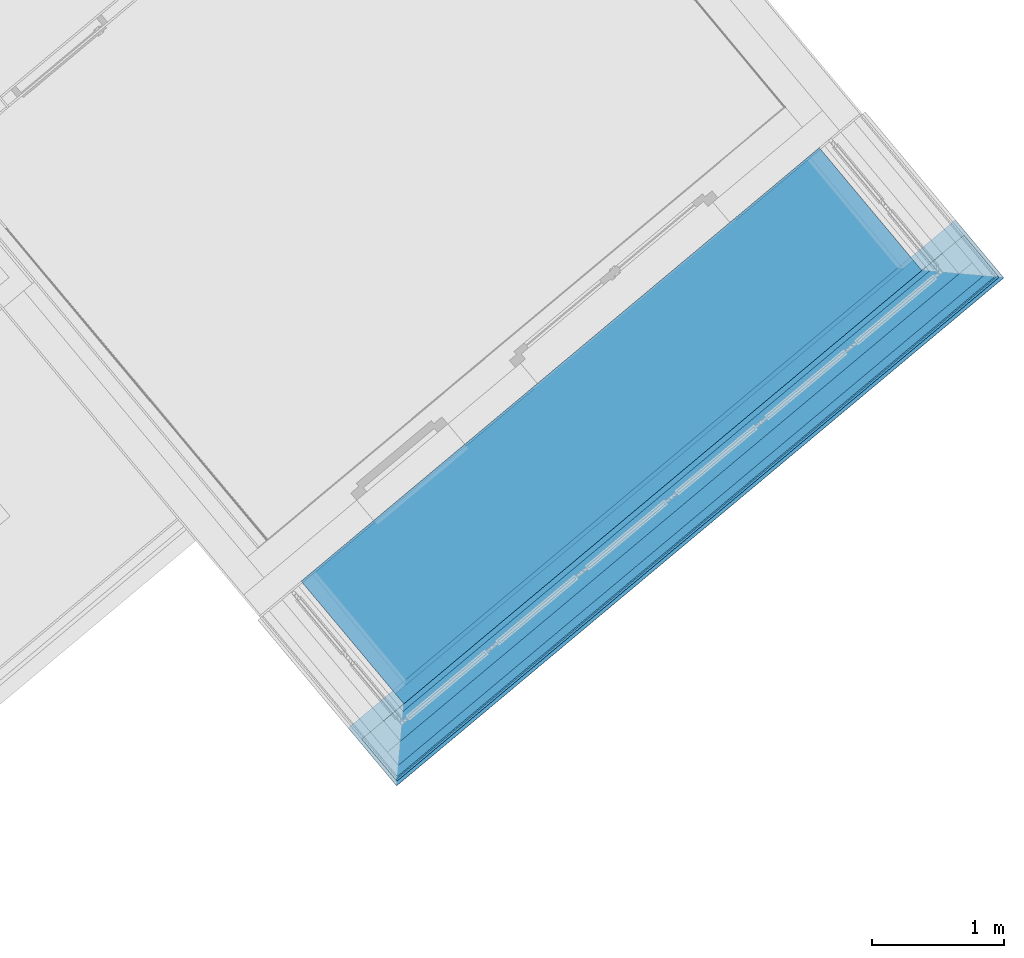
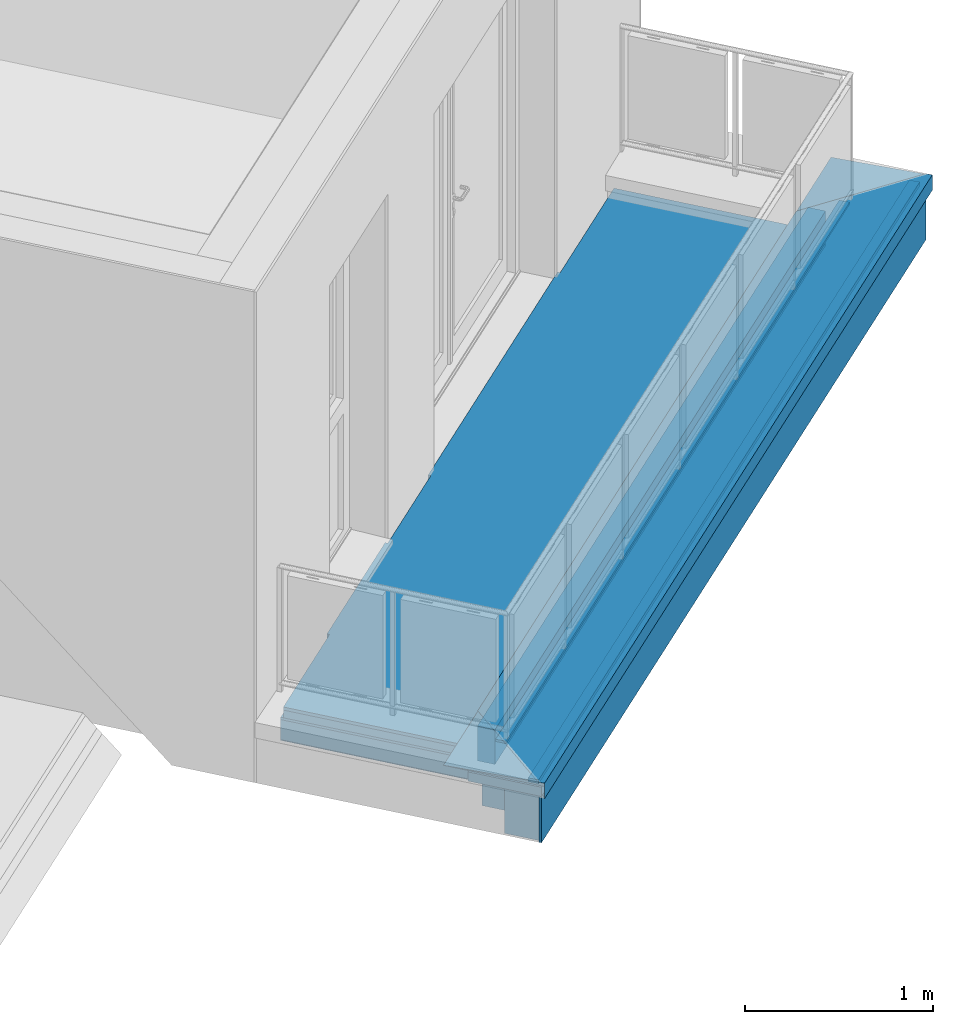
# One storey, part 34 of 50: 14 building element parts, 2 elements without a shape of their own.
"""IFC4 building model written with IfcOpenShell, lengths in metres."""

from ifc_helpers import new_model, entity, si_unit, converted_unit, derived_unit, direction, frame, origin_with_axes, place, context, subcontext, project, spatial, polygons, material, type_object, element, aggregate, save


model = new_model("IFC4")

# Units and contexts
model_context = context("Model", 3, precision=1e-05, world=origin_with_axes(), true_north=direction((0.0, 1.0)))
body_context = subcontext(model_context, "Body", "Model", "MODEL_VIEW")
ifc_project = project(units=[si_unit("LENGTHUNIT", "METRE"), si_unit("AREAUNIT", "SQUARE_METRE"), si_unit("VOLUMEUNIT", "CUBIC_METRE"), converted_unit("PLANEANGLEUNIT", "DEGREE", entity("IfcPlaneAngleMeasure", 0.0174532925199), si_unit("PLANEANGLEUNIT", "RADIAN"), dimensions=[0, 0, 0, 0, 0, 0, 0]), converted_unit("TIMEUNIT", "Year", entity("IfcTimeMeasure", 31556926.0), si_unit("TIMEUNIT", "SECOND"), dimensions=[0, 0, 1, 0, 0, 0, 0]), si_unit("MASSUNIT", "GRAM", prefix="KILO"), si_unit("THERMODYNAMICTEMPERATUREUNIT", "DEGREE_CELSIUS"), si_unit("LUMINOUSINTENSITYUNIT", "LUMEN"), si_unit("ENERGYUNIT", "JOULE", prefix="MEGA"), derived_unit("THERMALCONDUCTANCEUNIT", [(si_unit("POWERUNIT", "WATT"), 1), (si_unit("LENGTHUNIT", "METRE"), -1), (si_unit("THERMODYNAMICTEMPERATUREUNIT", "KELVIN"), -1)]), derived_unit("SPECIFICHEATCAPACITYUNIT", [(si_unit("ENERGYUNIT", "JOULE"), 1), (si_unit("MASSUNIT", "GRAM", prefix="KILO"), -1), (si_unit("THERMODYNAMICTEMPERATUREUNIT", "KELVIN"), -1)]), derived_unit("MASSDENSITYUNIT", [(si_unit("MASSUNIT", "GRAM", prefix="KILO"), 1), (si_unit("VOLUMEUNIT", "CUBIC_METRE"), -1)])], contexts=[model_context])

# Site, building, storey
site_placement = place(None, frame((-0.00153261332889, -0.00661245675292, 0.0), z_axis=(0.0, 0.0, 1.0), x_axis=(1.0, 0.0, 0.0)))
site = spatial("IfcSite", under=ifc_project, at=site_placement, Name="Gelände", CompositionType="ELEMENT")
building_placement = place(site_placement, origin_with_axes())
building = spatial("IfcBuilding", under=site, at=building_placement, Name="Gebäude", CompositionType="ELEMENT")
storey_placement = place(building_placement, frame((0.0, 0.0, 8.66), z_axis=(0.0, 0.0, 1.0), x_axis=(1.0, 0.0, 0.0)))
storey = spatial("IfcBuildingStorey", under=building, at=storey_placement, Name="DG2", CompositionType="ELEMENT", Elevation=8.66)

# Wall, building element parts
wall_type = type_object("IfcWallType", Name="Bauteil - Attika Terrasse 1.DG 574 x 410", PredefinedType="NOTDEFINED")
wall_placement = place(storey_placement, frame((8.86706086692, 16.7682826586, -0.2), z_axis=(0.0, 0.0, 1.0), x_axis=(0.766948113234, 0.641709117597, 0.0)))
wall = element("IfcWall", 1, at=wall_placement, inside=storey, type_object=wall_type, Name="Wand-004", PredefinedType="NOTDEFINED")
ifc_material_1 = material(Name="Stahl")
building_element_part_1_placement = place(wall_placement, origin_with_axes())
building_element_part_1 = element("IfcBuildingElementPart", 2, at=building_element_part_1_placement, material=ifc_material_1, Name="Stahl", PredefinedType="NOTDEFINED", context=body_context, shape_type="Tessellation", body=[
    polygons([(-0.241500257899, -0.241500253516, 0.510007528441), (-0.241500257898, -0.239585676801, 0.510007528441), (-0.240542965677, -0.240542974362, 0.50905023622), (-0.241500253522, -0.238231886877, 0.511361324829), (-0.241500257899, -0.241500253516, 0.610006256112), (-0.241500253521, -0.202730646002, 0.608602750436), (-0.241500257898, -0.240152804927, 0.608602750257), (-0.241500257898, -0.240146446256, 0.51136132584), (-0.240146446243, -0.238231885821, 0.511361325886), (-0.233287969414, -0.23137340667, 0.518219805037), (5.74582290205, -0.23137340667, 0.518219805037), (5.75267691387, -0.238231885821, 0.511361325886), (5.75403072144, -0.238231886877, 0.511361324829), (5.75402983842, -0.239585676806, 0.510007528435), (5.75307201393, -0.240542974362, 0.509050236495), (5.75402859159, -0.241500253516, 0.510007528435), (5.75402859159, -0.241500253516, 0.610006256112), (5.75405384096, -0.202730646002, 0.608602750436), (5.75270639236, -0.202730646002, 0.608602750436), (5.75183065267, -0.201849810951, 0.608570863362), (5.21824105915, 0.332051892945, 0.589243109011), (0.294660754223, 0.332051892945, 0.589243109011), (-0.239276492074, -0.201849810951, 0.608570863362), (-0.240152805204, -0.202730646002, 0.608602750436), (-0.240152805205, -0.240152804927, 0.608602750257), (5.75268202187, -0.240152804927, 0.608602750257), (5.75402946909, -0.240152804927, 0.608602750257), (5.75402947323, -0.240146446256, 0.51136132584), (5.75267566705, -0.24014644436, 0.511361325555), (-0.240146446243, -0.24014644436, 0.511361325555), (-0.232283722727, -0.23228372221, 0.519224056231), (5.74481806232, -0.23228372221, 0.519224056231), (5.75180627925, -0.239276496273, 0.608570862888), (5.18220274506, 0.330665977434, 0.587938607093), (5.18220281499, 0.330698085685, 0.587937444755), (5.18220365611, 0.332051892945, 0.587938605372), (0.330137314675, 0.332051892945, 0.489652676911), (0.328783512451, 0.332051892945, 0.49100648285), (0.330698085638, 0.332051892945, 0.491006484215), (0.330698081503, 0.332051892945, 0.498822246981), (0.330698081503, 0.332051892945, 0.499999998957), (0.330698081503, 0.332051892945, 0.50905023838), (0.330698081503, 0.332051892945, 0.511361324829), (0.330698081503, 0.332051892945, 0.519224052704), (0.330698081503, 0.332051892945, 0.559999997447), (0.330698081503, 0.332051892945, 0.567947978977), (0.330698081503, 0.332051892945, 0.573880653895), (0.330698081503, 0.332051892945, 0.575979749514), (0.330698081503, 0.332051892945, 0.584015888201), (0.330698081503, 0.332051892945, 0.586106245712), (0.330698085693, 0.332051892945, 0.587938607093), (5.1822036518, 0.332051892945, 0.586106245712), (5.1822036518, 0.332051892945, 0.584015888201), (5.1822036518, 0.332051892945, 0.575979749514), (5.1822036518, 0.332051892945, 0.573880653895), (5.1822036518, 0.332051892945, 0.567947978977), (5.1822036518, 0.332051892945, 0.559999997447), (5.1822036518, 0.332051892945, 0.519224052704), (5.1822036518, 0.332051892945, 0.511361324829), (5.1822036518, 0.332051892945, 0.50905023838), (5.1822036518, 0.332051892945, 0.499999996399), (5.1822036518, 0.332051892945, 0.498822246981), (5.18220364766, 0.332051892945, 0.491006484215), (5.18411820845, 0.332051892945, 0.49100648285), (5.18276440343, 0.332051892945, 0.489652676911), (-0.239276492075, -0.239276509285, 0.608570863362), (0.330698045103, 0.330698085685, 0.587937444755), (0.330698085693, 0.33066589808, 0.587938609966), (5.18220277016, 0.330698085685, 0.586106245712), (0.32878351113, 0.330698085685, 0.491006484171), (0.331094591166, 0.331094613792, 0.488695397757), (0.328783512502, 0.328783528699, 0.49100648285), (0.330698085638, 0.330698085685, 0.491006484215), (0.330698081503, 0.330698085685, 0.498822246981), (0.330698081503, 0.330698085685, 0.499999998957), (0.330698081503, 0.330698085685, 0.50905023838), (0.330698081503, 0.330698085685, 0.511361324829), (0.330698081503, 0.330698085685, 0.519224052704), (0.330698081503, 0.330698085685, 0.559999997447), (0.330698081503, 0.330698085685, 0.567947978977), (0.330698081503, 0.330698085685, 0.573880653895), (0.330698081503, 0.330698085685, 0.575979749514), (0.330698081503, 0.330698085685, 0.584015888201), (0.330698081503, 0.330698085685, 0.586106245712), (5.18220277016, 0.330698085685, 0.584015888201), (5.18220277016, 0.330698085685, 0.575979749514), (5.18220277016, 0.330698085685, 0.573880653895), (5.18220277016, 0.330698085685, 0.567947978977), (5.18220277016, 0.330698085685, 0.559999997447), (5.18220277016, 0.330698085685, 0.519224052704), (5.18220277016, 0.330698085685, 0.511361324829), (5.18220277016, 0.330698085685, 0.50905023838), (5.18220277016, 0.330698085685, 0.499999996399), (5.18220277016, 0.330698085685, 0.498822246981), (5.18220276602, 0.330698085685, 0.491006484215), (5.18411732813, 0.330698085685, 0.491006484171), (5.18180650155, 0.331094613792, 0.488695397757), (5.18411607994, 0.328783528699, 0.49100648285), (0.321878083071, 0.32187807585, 0.497911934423), (5.19101702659, 0.32187807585, 0.497911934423), (0.321878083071, 0.323792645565, 0.497911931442), (0.322882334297, 0.322882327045, 0.498822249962), (5.19001342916, 0.322882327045, 0.498822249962), (5.19101827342, 0.323792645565, 0.497911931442)], [[[1, 2, 3]], [[4, 2, 1, 5, 6, 7, 8]], [[2, 4, 9, 10, 11, 12, 13, 14, 15, 3]], [[1, 3, 15, 16]], [[5, 1, 16, 17]], [[6, 5, 17, 18, 19, 20, 21, 22, 23, 24]], [[25, 7, 6, 24]], [[8, 7, 25, 26, 27, 28, 29, 30]], [[4, 8, 30, 9]], [[9, 30, 31, 10]], [[10, 31, 32, 11]], [[29, 12, 11, 32]], [[12, 29, 28, 13]], [[16, 14, 13, 28, 27, 18, 17]], [[15, 14, 16]], [[27, 26, 19, 18]], [[26, 33, 20, 19]], [[33, 34, 35, 36, 21, 20]], [[37, 38, 39, 40, 41, 42, 43, 44, 45, 46, 47, 48, 49, 50, 51, 22, 21, 36, 52, 53, 54, 55, 56, 57, 58, 59, 60, 61, 62, 63, 64, 65]], [[66, 23, 22, 51, 67, 68]], [[23, 66, 25, 24]], [[25, 66, 33, 26]], [[31, 30, 29, 32]], [[66, 68, 67, 35, 34, 33]], [[69, 52, 36, 35]], [[70, 38, 37, 71, 72]], [[38, 70, 73, 39]], [[40, 39, 73, 74]], [[41, 40, 74, 75]], [[42, 41, 75, 76]], [[43, 42, 76, 77]], [[44, 43, 77, 78]], [[45, 44, 78, 79]], [[46, 45, 79, 80]], [[47, 46, 80, 81]], [[48, 47, 81, 82]], [[49, 48, 82, 83]], [[50, 49, 83, 84]], [[51, 50, 84, 67]], [[52, 69, 85, 53]], [[86, 54, 53, 85]], [[87, 55, 54, 86]], [[88, 56, 55, 87]], [[89, 57, 56, 88]], [[90, 58, 57, 89]], [[91, 59, 58, 90]], [[92, 60, 59, 91]], [[93, 61, 60, 92]], [[61, 93, 94, 62]], [[63, 62, 94, 95]], [[63, 95, 96, 64]], [[97, 65, 64, 96, 98]], [[71, 37, 65, 97]], [[73, 95, 94, 93, 92, 91, 90, 89, 88, 87, 86, 85, 69, 35, 67, 84, 83, 82, 81, 80, 79, 78, 77, 76, 75, 74]], [[99, 72, 71, 97, 98, 100]], [[101, 70, 72, 99]], [[70, 101, 102, 103, 104, 96, 95, 73]], [[98, 96, 104, 100]], [[102, 99, 100, 103]], [[101, 99, 102]], [[104, 103, 100]]], closed=True),
])
ifc_material_2 = material(Name="Holzwerkstoff")
building_element_part_2_placement = place(wall_placement, origin_with_axes())
building_element_part_2 = element("IfcBuildingElementPart", 3, at=building_element_part_2_placement, material=ifc_material_2, Name="Holzwerkstoff", PredefinedType="NOTDEFINED", context=body_context, shape_type="Tessellation", body=[
    polygons([(0.0999999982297, 0.330280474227, 0.575979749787), (0.160110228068, 0.33020717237, 0.573880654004), (0.160110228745, 0.160110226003, 0.573880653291), (0.0999999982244, 0.100000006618, 0.575979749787), (-0.189985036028, 0.330634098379, 0.58610624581), (-0.239999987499, 0.33069508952, 0.587852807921), (-0.239997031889, 0.330698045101, 0.587937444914), (5.75289796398, 0.330698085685, 0.587938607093), (5.75290095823, 0.33069508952, 0.587852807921), (5.7028858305, 0.330634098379, 0.586106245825), (5.64302583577, 0.33056110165, 0.58401588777), (5.41290062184, 0.330280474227, 0.575979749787), (5.35279033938, 0.330207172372, 0.573880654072), (5.18290040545, 0.329999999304, 0.567947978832), (0.329999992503, 0.329999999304, 0.567947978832), (-0.130124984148, 0.33056110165, 0.58401588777), (5.35267956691, 0.160110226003, 0.573880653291), (5.41275065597, 0.100000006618, 0.575979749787), (-0.130124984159, -0.130124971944, 0.58401588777), (-0.189985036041, -0.189985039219, 0.58610624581), (-0.239999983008, -0.239999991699, 0.587852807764), (-0.239997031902, -0.239997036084, 0.587937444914), (-0.239276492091, -0.239276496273, 0.608570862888), (5.75180627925, -0.239276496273, 0.608570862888), (5.75252630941, -0.239996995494, 0.587938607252), (5.75252929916, -0.239999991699, 0.587852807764), (5.70254666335, -0.189984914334, 0.586106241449), (5.64272582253, -0.130124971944, 0.58401588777)], [[[1, 2, 3, 4]], [[5, 6, 7, 8, 9, 10, 11, 12, 13, 14, 15, 2, 1, 16]], [[2, 15, 3]], [[4, 3, 17, 18]], [[16, 1, 4, 19]], [[20, 21, 6, 5]], [[21, 22, 7, 6]], [[7, 23, 24, 8]], [[25, 26, 9, 8]], [[26, 27, 10, 9]], [[11, 10, 27, 28]], [[12, 11, 28, 18]], [[17, 13, 12, 18]], [[14, 13, 17]], [[3, 15, 14, 17]], [[19, 20, 5, 16]], [[4, 18, 28, 19]], [[21, 20, 27, 26]], [[22, 21, 26, 25, 24, 23]], [[22, 23, 7]], [[24, 25, 8]], [[20, 19, 28, 27]]], closed=True),
])
ifc_material_3 = material(Name="EPS 1")
building_element_part_3_placement = place(wall_placement, origin_with_axes())
building_element_part_3 = element("IfcBuildingElementPart", 4, at=building_element_part_3_placement, material=ifc_material_3, Name="EPS 1", PredefinedType="NOTDEFINED", context=body_context, shape_type="Tessellation", body=[
    polygons([(0.199999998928, 0.2, 0.48869538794), (0.199999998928, 0.2, 0.49100648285), (0.199999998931, 0.3, 0.49100648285), (0.199999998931, 0.3, 0.48869538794), (0.199999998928, 0.2, 0.335), (5.31281576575, 0.2, 0.335), (5.31281576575, 0.2, 0.48869538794), (5.31281576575, 0.2, 0.49100648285), (5.31281576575, 0.2, 0.498822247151), (5.31281576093, 0.2, 0.500000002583), (5.31281576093, 0.2, 0.50905023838), (5.31281576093, 0.2, 0.511361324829), (5.31281576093, 0.2, 0.519224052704), (5.31281576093, 0.2, 0.559999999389), (0.200000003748, 0.2, 0.559999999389), (0.200000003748, 0.2, 0.519224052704), (0.200000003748, 0.2, 0.511361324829), (0.200000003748, 0.2, 0.50905023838), (0.199999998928, 0.2, 0.500000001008), (0.199999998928, 0.2, 0.498822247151), (0.199999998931, 0.3, 0.498822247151), (0.199999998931, 0.3, 0.335), (0.199999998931, 0.3, 0.500000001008), (0.20000000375, 0.3, 0.50905023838), (0.20000000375, 0.3, 0.511361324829), (0.20000000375, 0.3, 0.519224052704), (0.20000000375, 0.3, 0.559999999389), (5.31288088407, 0.3, 0.559999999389), (5.31288088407, 0.3, 0.519224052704), (5.31288088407, 0.3, 0.511361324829), (5.31288088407, 0.3, 0.50905023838), (5.31288088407, 0.3, 0.500000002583), (5.31288088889, 0.3, 0.498822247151), (5.31288088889, 0.3, 0.49100648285), (5.31288088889, 0.3, 0.48869538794), (5.31288088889, 0.3, 0.335)], [[[1, 2, 3, 4]], [[1, 5, 6, 7, 8, 9, 10, 11, 12, 13, 14, 15, 16, 17, 18, 19, 20, 2]], [[2, 20, 21, 3]], [[22, 4, 3, 21, 23, 24, 25, 26, 27, 28, 29, 30, 31, 32, 33, 34, 35, 36]], [[5, 1, 4, 22]], [[5, 22, 36, 6]], [[36, 35, 7, 6]], [[35, 34, 8, 7]], [[34, 33, 9, 8]], [[33, 32, 10, 9]], [[11, 10, 32, 31]], [[12, 11, 31, 30]], [[13, 12, 30, 29]], [[14, 13, 29, 28]], [[27, 15, 14, 28]], [[16, 15, 27, 26]], [[17, 16, 26, 25]], [[18, 17, 25, 24]], [[23, 19, 18, 24]], [[20, 19, 23, 21]]], closed=True),
])
ifc_material_4 = material(Name="Vollholz")
building_element_part_4_placement = place(wall_placement, origin_with_axes())
building_element_part_4 = element("IfcBuildingElementPart", 5, at=building_element_part_4_placement, material=ifc_material_4, Name="Vollholz", PredefinedType="NOTDEFINED", context=body_context, shape_type="Tessellation", body=[
    polygons([(0.0999999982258, 0.160110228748, 0.573880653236), (0.0999999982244, 0.1, 0.575979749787), (5.41275065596, 0.1, 0.575979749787), (5.41278980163, 0.160110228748, 0.573880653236), (0.0999999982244, 0.1, 0.573880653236), (0.0999999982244, 0.1, 0.567947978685), (0.0999999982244, 0.1, 0.559999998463), (5.41275065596, 0.1, 0.559999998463), (5.41275065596, 0.1, 0.567947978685), (5.41275065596, 0.1, 0.573880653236), (0.0999999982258, 0.160063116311, 0.567947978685), (5.41278977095, 0.160063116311, 0.567947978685), (5.41278972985, 0.16, 0.559999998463), (0.0999999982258, 0.16, 0.559999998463)], [[[1, 2, 3, 4]], [[5, 2, 1]], [[2, 5, 6, 7, 8, 9, 10, 3]], [[4, 3, 10]], [[11, 1, 4, 12, 13, 14]], [[5, 1, 11, 6]], [[6, 11, 14, 7]], [[7, 14, 13, 8]], [[12, 9, 8, 13]], [[4, 10, 9, 12]]], closed=True),
])
ifc_material_5 = material(Name="Stahlbeton")
building_element_part_5_placement = place(wall_placement, origin_with_axes())
building_element_part_5 = element("IfcBuildingElementPart", 6, at=building_element_part_5_placement, material=ifc_material_5, Name="Stahlbeton", PredefinedType="NOTDEFINED", context=body_context, shape_type="Tessellation", body=[
    polygons([(-2.35250041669e-10, 0.199999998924, 0.499999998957), (-2.39911202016e-10, 1.82835346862e-09, 0.499999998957), (5.51268556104, 1.8283587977e-09, 0.499999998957), (5.51281580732, 0.199999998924, 0.499999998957), (-2.39911202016e-10, 1.82835346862e-09, 0.498822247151), (-2.35246488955e-10, 0.199999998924, 0.498822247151), (-2.39911202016e-10, 1.82835346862e-09, 0.49100648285), (-2.39911202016e-10, 1.82835346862e-09, 0.488695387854), (-2.39911202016e-10, 1.82835346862e-09, 0.335), (-2.39907649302e-10, 1.82835702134e-09, 0.2), (5.51268556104, 1.8283587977e-09, 0.2), (5.51268556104, 1.82835346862e-09, 0.335), (5.51268556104, 1.82835524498e-09, 0.488695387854), (5.51268556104, 1.82835524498e-09, 0.49100648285), (5.51268556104, 1.82835524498e-09, 0.498822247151), (5.51281580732, 0.199999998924, 0.498822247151), (5.51281580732, 0.199999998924, 0.49100648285), (5.51281580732, 0.199999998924, 0.488695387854), (5.51281580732, 0.199999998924, 0.335), (-2.35246488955e-10, 0.199999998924, 0.335), (-2.35246488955e-10, 0.199999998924, 0.488695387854), (-2.35246488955e-10, 0.199999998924, 0.49100648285), (-2.35246488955e-10, 0.199999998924, 0.2), (5.51281580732, 0.199999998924, 0.2)], [[[1, 2, 3, 4]], [[5, 2, 1, 6]], [[2, 5, 7, 8, 9, 10, 11, 12, 13, 14, 15, 3]], [[4, 3, 15, 16]], [[6, 1, 4, 16, 17, 18, 19, 20, 21, 22]], [[5, 6, 22, 7]], [[7, 22, 21, 8]], [[8, 21, 20, 9]], [[9, 20, 23, 10]], [[10, 23, 24, 11]], [[19, 12, 11, 24]], [[18, 13, 12, 19]], [[17, 14, 13, 18]], [[16, 15, 14, 17]], [[23, 20, 19, 24]]], closed=True),
])
building_element_part_6_placement = place(wall_placement, origin_with_axes())
building_element_part_6 = element("IfcBuildingElementPart", 7, at=building_element_part_6_placement, material=ifc_material_3, Name="EPS 1", PredefinedType="NOTDEFINED", context=body_context, shape_type="Tessellation", body=[
    polygons([(-0.199999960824, -2.39909425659e-10, 0.499999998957), (-0.199999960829, -0.19999996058, 0.499999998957), (5.71255531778, -0.19999996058, 0.499999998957), (5.71268556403, -2.39904984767e-10, 0.499999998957), (-0.199999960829, -0.19999996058, 0.498822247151), (-0.199999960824, -2.39909425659e-10, 0.498822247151), (-0.199999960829, -0.19999996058, 0.49100648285), (-0.199999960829, -0.19999996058, 0.488695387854), (-0.199999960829, -0.19999996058, 0.335), (-0.199999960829, -0.19999996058, 0.2), (5.71255531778, -0.19999996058, 0.2), (5.71255531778, -0.19999996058, 0.335), (5.71255531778, -0.19999996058, 0.488695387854), (5.71255531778, -0.19999996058, 0.49100648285), (5.71255531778, -0.19999996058, 0.498822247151), (5.71268556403, -2.39910313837e-10, 0.498822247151), (5.71268556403, -2.39910313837e-10, 0.49100648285), (5.71268556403, -2.39910313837e-10, 0.488695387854), (5.71268556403, -2.39910313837e-10, 0.335), (5.71268556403, -2.39906761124e-10, 0.2), (-0.199999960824, -2.39909425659e-10, 0.2), (-0.199999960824, -2.39909425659e-10, 0.335), (-0.199999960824, -2.39909425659e-10, 0.488695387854), (-0.199999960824, -2.39909425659e-10, 0.49100648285)], [[[1, 2, 3, 4]], [[5, 2, 1, 6]], [[2, 5, 7, 8, 9, 10, 11, 12, 13, 14, 15, 3]], [[4, 3, 15, 16]], [[6, 1, 4, 16, 17, 18, 19, 20, 21, 22, 23, 24]], [[5, 6, 24, 7]], [[7, 24, 23, 8]], [[8, 23, 22, 9]], [[9, 22, 21, 10]], [[10, 21, 20, 11]], [[19, 12, 11, 20]], [[18, 13, 12, 19]], [[17, 14, 13, 18]], [[16, 15, 14, 17]]], closed=True),
])
building_element_part_7_placement = place(wall_placement, origin_with_axes())
building_element_part_7 = element("IfcBuildingElementPart", 8, at=building_element_part_7_placement, material=ifc_material_4, Name="Vollholz", PredefinedType="NOTDEFINED", context=body_context, shape_type="Tessellation", body=[
    polygons([(-0.189996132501, -0.130124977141, 0.584015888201), (-0.189985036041, -0.189984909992, 0.58610624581), (5.70254678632, -0.189984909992, 0.586106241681), (5.70259698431, -0.13012497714, 0.584015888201), (-0.189996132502, -0.189996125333, 0.584015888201), (-0.190039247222, -0.190039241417, 0.575979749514), (-0.19005050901, -0.190050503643, 0.573880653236), (-0.190082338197, -0.190082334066, 0.567947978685), (-0.190124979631, -0.190124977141, 0.559999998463), (5.70268676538, -0.190124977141, 0.559999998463), (5.70264414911, -0.190082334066, 0.567947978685), (5.7026123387, -0.190050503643, 0.573880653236), (5.70260108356, -0.190039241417, 0.575979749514), (5.70255799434, -0.189996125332, 0.584015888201), (-0.19003924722, -0.130124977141, 0.575979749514), (5.70264010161, -0.130124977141, 0.575979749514), (5.70265136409, -0.130124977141, 0.573880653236), (5.70268319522, -0.130124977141, 0.567947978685), (5.70272583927, -0.130124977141, 0.559999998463), (-0.19012497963, -0.130124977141, 0.559999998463), (-0.190082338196, -0.130124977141, 0.567947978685), (-0.190050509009, -0.130124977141, 0.573880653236)], [[[1, 2, 3, 4]], [[5, 2, 1]], [[2, 5, 6, 7, 8, 9, 10, 11, 12, 13, 14, 3]], [[3, 14, 4]], [[15, 1, 4, 16, 17, 18, 19, 20, 21, 22]], [[5, 1, 15, 6]], [[6, 15, 22, 7]], [[7, 22, 21, 8]], [[8, 21, 20, 9]], [[9, 20, 19, 10]], [[18, 11, 10, 19]], [[17, 12, 11, 18]], [[16, 13, 12, 17]], [[4, 14, 13, 16]]], closed=True),
])
ifc_material_6 = material(Name="Zementputz")
building_element_part_8_placement = place(wall_placement, origin_with_axes())
building_element_part_8 = element("IfcBuildingElementPart", 9, at=building_element_part_8_placement, material=ifc_material_6, Name="Zementputz", PredefinedType="NOTDEFINED", context=body_context, shape_type="Tessellation", body=[
    polygons([(-0.214999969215, -0.199999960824, 0.499999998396), (-0.214999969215, -0.214999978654, 0.499999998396), (5.72754556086, -0.214999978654, 0.499999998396), (5.72755532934, -0.199999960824, 0.499999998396), (-0.214999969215, -0.214999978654, 0.2), (-0.214999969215, -0.199999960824, 0.2), (5.72754556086, -0.214999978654, 0.2), (5.72755532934, -0.199999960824, 0.2)], [[[1, 2, 3, 4]], [[5, 2, 1, 6]], [[2, 5, 7, 3]], [[3, 7, 8, 4]], [[6, 1, 4, 8]], [[5, 6, 8, 7]]], closed=True),
])
ifc_material_7 = material(Name="Brettschichtholz")
building_element_part_9_placement = place(wall_placement, origin_with_axes())
building_element_part_9 = element("IfcBuildingElementPart", 10, at=building_element_part_9_placement, material=ifc_material_7, Name="Brettschichtholz", PredefinedType="NOTDEFINED", context=body_context, shape_type="Tessellation", body=[
    polygons([(-0.214999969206, 0.200000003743, 0.499999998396), (-0.214999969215, -0.214999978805, 0.499999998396), (-0.214999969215, -0.214999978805, 0.50905023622), (-0.214999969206, 0.200000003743, 0.50905023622), (5.72781582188, 0.200000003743, 0.499999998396), (5.72754556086, -0.214999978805, 0.499999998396), (5.72754556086, -0.214999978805, 0.50905023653), (5.7275455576, -0.214999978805, 0.511361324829), (5.72754556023, -0.214999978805, 0.519224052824), (5.7275455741, -0.214999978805, 0.559999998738), (-0.214999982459, -0.214999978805, 0.559999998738), (-0.214999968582, -0.214999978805, 0.519224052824), (-0.214999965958, -0.214999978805, 0.511361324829), (-0.214999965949, 0.200000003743, 0.511361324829), (-0.214999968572, 0.200000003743, 0.519224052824), (-0.21499998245, 0.200000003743, 0.559999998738), (5.72781583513, 0.200000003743, 0.559999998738), (5.72781582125, 0.200000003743, 0.519224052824), (5.72781581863, 0.200000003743, 0.511361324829), (5.72781582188, 0.200000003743, 0.509050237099), (5.72778978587, 0.159999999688, 0.559999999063), (5.72775071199, 0.100000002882, 0.559999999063), (5.72760084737, -0.130124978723, 0.559999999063), (5.72756177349, -0.190124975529, 0.559999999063), (-0.214999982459, -0.190124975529, 0.559999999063), (-0.214999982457, -0.130124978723, 0.559999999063), (-0.214999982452, 0.100000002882, 0.559999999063), (-0.214999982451, 0.159999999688, 0.559999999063)], [[[1, 2, 3, 4]], [[2, 1, 5, 6]], [[3, 2, 6, 7, 8, 9, 10, 11, 12, 13]], [[4, 3, 13, 14]], [[1, 4, 14, 15, 16, 17, 18, 19, 20, 5]], [[5, 20, 7, 6]], [[19, 8, 7, 20]], [[8, 19, 18, 9]], [[9, 18, 17, 21, 22, 23, 24, 10]], [[25, 11, 10, 24]], [[11, 25, 26, 27, 28, 16, 15, 12]], [[14, 13, 12, 15]], [[16, 28, 21, 17]], [[28, 27, 22, 21]], [[27, 26, 23, 22]], [[26, 25, 24, 23]]], closed=True),
])
aggregate(wall, [building_element_part_1, building_element_part_2, building_element_part_3, building_element_part_4, building_element_part_5, building_element_part_6, building_element_part_7, building_element_part_8, building_element_part_9])

# Covering, building element parts
covering_type = type_object("IfcCoveringType", Name="Balkon vor Terrasse 220", PredefinedType="NOTDEFINED")
covering_placement = place(storey_placement, frame((8.89210866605, 17.0500141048, 0.0), z_axis=(0.0, 0.0, 1.0), x_axis=(1.0, 0.0, 0.0)))
covering = element("IfcCovering", 11, at=covering_placement, inside=storey, type_object=covering_type, Name="Decke-005", PredefinedType="NOTDEFINED")
ifc_material_8 = material(Name="Platten")
building_element_part_10_placement = place(covering_placement, origin_with_axes())
building_element_part_10 = element("IfcBuildingElementPart", 12, at=building_element_part_10_placement, material=ifc_material_8, Name="Platten", PredefinedType="NOTDEFINED", context=body_context, shape_type="Tessellation", body=[
    polygons([(-0.219204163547, 1.37643832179, 0.22), (-0.767690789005, 0.917516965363, 0.22), (0.0, 0.0, 0.22), (3.92126440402, 3.28094049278, 0.22), (3.15417113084, 4.19895740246, 0.22), (2.51600409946, 3.66500002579, 0.22), (2.5063784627, 3.67650424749, 0.22), (0.972482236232, 2.39308601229, 0.22), (0.982107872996, 2.3815817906, 0.22), (0.471049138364, 1.95397652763, 0.22), (0.4614235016, 1.96548074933, 0.22), (-0.228829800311, 1.38794254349, 0.22), (-0.219204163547, 1.37643832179, 0.2), (-0.767690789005, 0.917516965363, 0.2), (0.0, 0.0, 0.2), (3.92126440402, 3.28094049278, 0.2), (3.15417113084, 4.19895740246, 0.2), (2.51600409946, 3.66500002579, 0.2), (2.5063784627, 3.67650424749, 0.2), (0.972482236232, 2.39308601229, 0.2), (0.982107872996, 2.3815817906, 0.2), (0.471049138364, 1.95397652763, 0.2), (0.4614235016, 1.96548074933, 0.2), (-0.228829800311, 1.38794254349, 0.2)], [[[1, 2, 3, 4, 5, 6, 7, 8, 9, 10, 11, 12]], [[2, 1, 13, 14]], [[2, 14, 15, 3]], [[15, 16, 4, 3]], [[17, 5, 4, 16]], [[6, 5, 17, 18]], [[7, 6, 18, 19]], [[20, 8, 7, 19]], [[9, 8, 20, 21]], [[10, 9, 21, 22]], [[11, 10, 22, 23]], [[24, 12, 11, 23]], [[1, 12, 24, 13]], [[13, 24, 23, 22, 21, 20, 19, 18, 17, 16, 15, 14]]], closed=True),
])
ifc_material_9 = material(Name="Luftschicht horizontal")
building_element_part_11_placement = place(covering_placement, origin_with_axes())
building_element_part_11 = element("IfcBuildingElementPart", 13, at=building_element_part_11_placement, material=ifc_material_9, Name="Luftschicht horizontal", PredefinedType="NOTDEFINED", context=body_context, shape_type="Tessellation", body=[
    polygons([(-0.219204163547, 1.37643832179, 0.2), (-0.767690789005, 0.917516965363, 0.2), (0.0, 0.0, 0.2), (3.92126440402, 3.28094049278, 0.2), (3.15417113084, 4.19895740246, 0.2), (2.51600409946, 3.66500002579, 0.2), (2.5063784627, 3.67650424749, 0.2), (0.972482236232, 2.39308601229, 0.2), (0.982107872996, 2.3815817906, 0.2), (0.471049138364, 1.95397652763, 0.2), (0.4614235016, 1.96548074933, 0.2), (-0.228829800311, 1.38794254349, 0.2), (-0.219204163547, 1.37643832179, 0.15), (-0.767690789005, 0.917516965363, 0.15), (0.0, 0.0, 0.15), (3.92126440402, 3.28094049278, 0.15), (3.15417113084, 4.19895740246, 0.15), (2.51600409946, 3.66500002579, 0.15), (2.5063784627, 3.67650424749, 0.15), (0.972482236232, 2.39308601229, 0.15), (0.982107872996, 2.3815817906, 0.15), (0.471049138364, 1.95397652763, 0.15), (0.4614235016, 1.96548074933, 0.15), (-0.228829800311, 1.38794254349, 0.15)], [[[1, 2, 3, 4, 5, 6, 7, 8, 9, 10, 11, 12]], [[2, 1, 13, 14]], [[2, 14, 15, 3]], [[15, 16, 4, 3]], [[17, 5, 4, 16]], [[6, 5, 17, 18]], [[7, 6, 18, 19]], [[20, 8, 7, 19]], [[9, 8, 20, 21]], [[10, 9, 21, 22]], [[11, 10, 22, 23]], [[24, 12, 11, 23]], [[1, 12, 24, 13]], [[13, 24, 23, 22, 21, 20, 19, 18, 17, 16, 15, 14]]], closed=True),
])
ifc_material_10 = material(Name="Sperrschicht")
building_element_part_12_placement = place(covering_placement, origin_with_axes())
building_element_part_12 = element("IfcBuildingElementPart", 14, at=building_element_part_12_placement, material=ifc_material_10, Name="Sperrschicht", PredefinedType="NOTDEFINED", context=body_context, shape_type="Tessellation", body=[
    polygons([(3.92126440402, 3.28094049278, 0.135), (3.92126440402, 3.28094049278, 0.15), (0.0, 0.0, 0.15), (0.0, 0.0, 0.135), (3.14455298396, 4.21046789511, 0.135), (3.14455298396, 4.21046789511, 0.15), (-0.777316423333, 0.929021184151, 0.15), (-0.777316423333, 0.929021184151, 0.135)], [[[1, 2, 3, 4]], [[5, 6, 2, 1]], [[3, 2, 6, 7]], [[4, 3, 7, 8]], [[4, 8, 5, 1]], [[8, 7, 6, 5]]], closed=True),
])
ifc_material_11 = material(Name="XPS")
building_element_part_13_placement = place(covering_placement, origin_with_axes())
building_element_part_13 = element("IfcBuildingElementPart", 15, at=building_element_part_13_placement, material=ifc_material_11, Name="XPS", PredefinedType="NOTDEFINED", context=body_context, shape_type="Tessellation", body=[
    polygons([(3.92126440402, 3.28094049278, 0.005), (3.92126440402, 3.28094049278, 0.135), (0.0, 0.0, 0.135), (0.0, 0.0, 0.005), (3.14455298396, 4.21046789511, 0.005), (3.14455298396, 4.21046789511, 0.135), (-0.777316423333, 0.929021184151, 0.135), (-0.777316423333, 0.929021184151, 0.005)], [[[1, 2, 3, 4]], [[5, 6, 2, 1]], [[3, 2, 6, 7]], [[4, 3, 7, 8]], [[4, 8, 5, 1]], [[8, 7, 6, 5]]], closed=True),
])
building_element_part_14_placement = place(covering_placement, origin_with_axes())
building_element_part_14 = element("IfcBuildingElementPart", 16, at=building_element_part_14_placement, material=ifc_material_10, Name="Sperrschicht", PredefinedType="NOTDEFINED", context=body_context, shape_type="Tessellation", body=[
    polygons([(0.0, 0.0, 0.0), (3.92126440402, 3.28094049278, 0.0), (3.92126440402, 3.28094049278, 0.005), (0.0, 0.0, 0.005), (-0.777316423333, 0.929021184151, 0.0), (3.14455298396, 4.21046789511, 0.0), (3.14455298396, 4.21046789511, 0.005), (-0.777316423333, 0.929021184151, 0.005)], [[[1, 2, 3, 4]], [[1, 5, 6, 2]], [[2, 6, 7, 3]], [[4, 3, 7, 8]], [[5, 1, 4, 8]], [[6, 5, 8, 7]]], closed=True),
])
aggregate(covering, [building_element_part_10, building_element_part_11, building_element_part_12, building_element_part_13, building_element_part_14])

save(model, "model.ifc")
